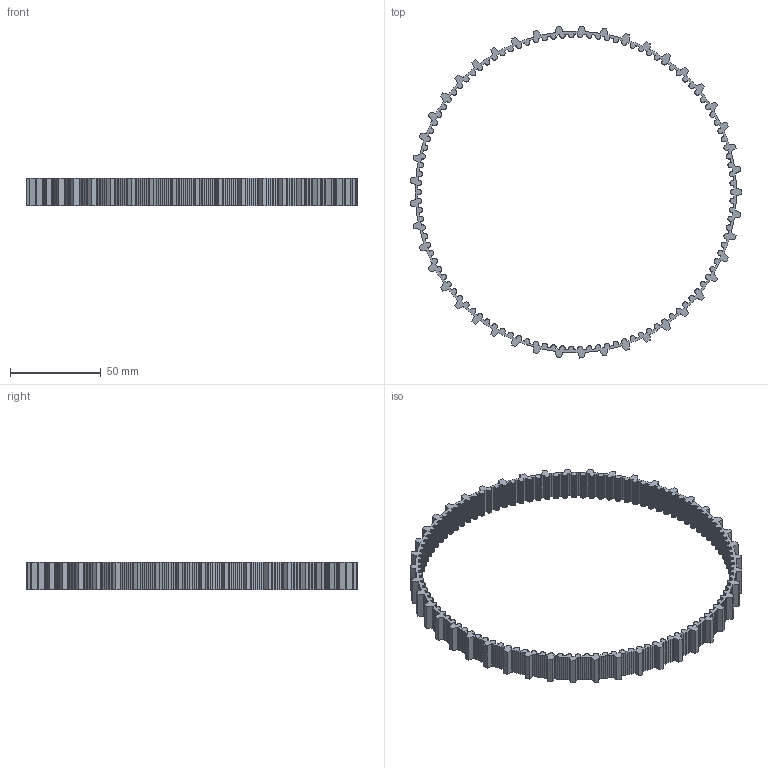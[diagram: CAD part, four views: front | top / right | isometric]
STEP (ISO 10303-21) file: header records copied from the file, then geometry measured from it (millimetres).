
FILE_DESCRIPTION(('Open CASCADE Model'),'2;1');
FILE_NAME('Open CASCADE Shape Model','2026-10-15T02:45:35',('Author'),( 'Open CASCADE'),'Open CASCADE STEP processor 7.9','Open CASCADE 7.9' ,'Unknown');
FILE_SCHEMA(('AUTOMOTIVE_DESIGN { 1 0 10303 214 1 1 1 1 }'));
Products named in the file (1): Open CASCADE STEP translator 7.9 1
Bounding box: 182.56 x 182.67 x 15 mm (x, y, z)
Volume: 26333.6 mm3; surface area: 27560.4 mm2
Topology: 1 solids, 1 shells, 3657 faces, 10965 edges, 7310 vertices
Faces by surface type: plane 3657
Entity records: 263198 total; most frequent: CARTESIAN_POINT 43863, DIRECTION 40211, LINE 32895, VECTOR 32895, ORIENTED_EDGE 21930, PCURVE 21930, DEFINITIONAL_REPRESENTATION 21930, EDGE_CURVE 10965
